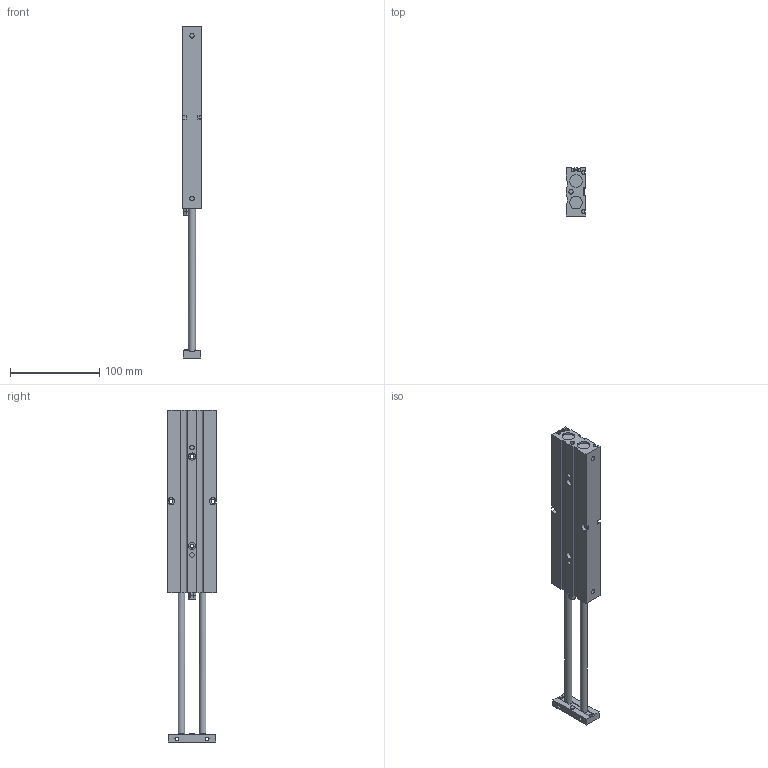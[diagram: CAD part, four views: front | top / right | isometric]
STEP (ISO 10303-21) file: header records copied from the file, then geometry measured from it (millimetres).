
FILE_DESCRIPTION((''),'2;1');
FILE_NAME('I:\3D電子目錄\氣缸\TD\TD16\TD16\TD16x150.stp','2007-08-06T09:38:43',('Administrator'),(''),'Autodesk Inventor 2008','Autodesk Inventor 2008','');
FILE_SCHEMA(('AUTOMOTIVE_DESIGN { 1 0 10303 214 1 1 1 1 }'));
Length unit declared in the file: millimetre
Products named in the file (1): TD16X150
Bounding box: 22 x 54 x 371 mm (x, y, z)
Volume: 240566.3 mm3; surface area: 57511.4 mm2
Topology: 1 solids, 3 shells, 179 faces, 465 edges, 304 vertices
Faces by surface type: plane 116, cylinder 42, bspline 12, cone 7, torus 2
Full cylindrical faces by diameter (mm): 4 x4, 4.5 x4, 5 x8, 6 x2, 7 x2, 8 x4, 14 x4
Entity records: 5819 total; most frequent: CARTESIAN_POINT 1627, ORIENTED_EDGE 824, DIRECTION 820, EDGE_CURVE 412, VERTEX_POINT 292, AXIS2_PLACEMENT_3D 274, VECTOR 272, LINE 272
